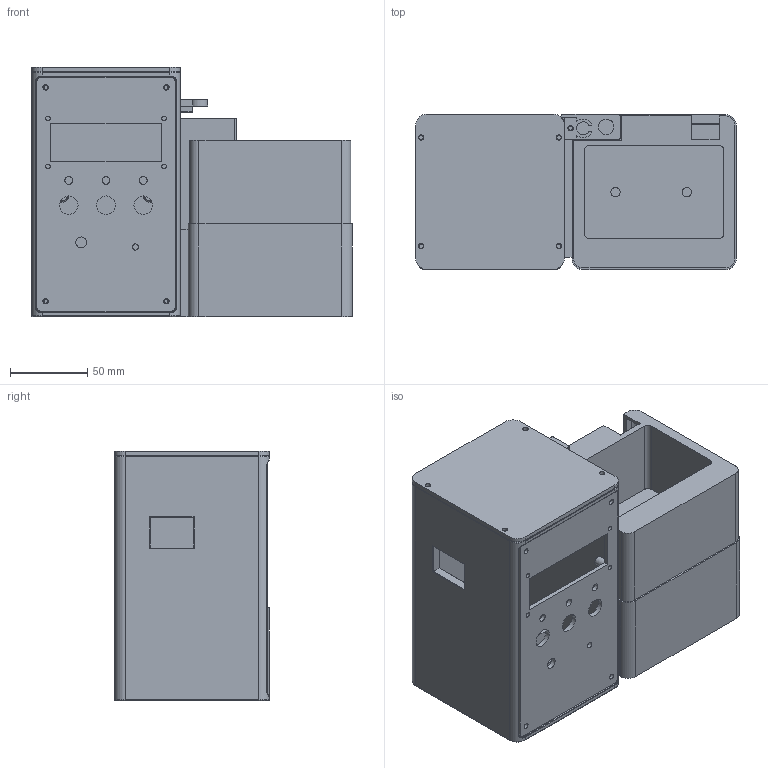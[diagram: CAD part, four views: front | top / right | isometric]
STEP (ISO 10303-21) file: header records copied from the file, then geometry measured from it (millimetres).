
FILE_DESCRIPTION(('Open CASCADE Model'),'2;1');
FILE_NAME('Open CASCADE Shape Model','2026-09-13T21:36:10',('Author'),( 'Open CASCADE'),'Open CASCADE STEP processor 7.9','Open CASCADE 7.9' ,'Unknown');
FILE_SCHEMA(('AUTOMOTIVE_DESIGN { 1 0 10303 214 1 1 1 1 }'));
Length unit declared in the file: millimetre
Products named in the file (6): Open CASCADE STEP translator 7.9 6; Open CASCADE STEP translator 7.9 6.1; Open CASCADE STEP translator 7.9 6.2; Open CASCADE STEP translator 7.9 6.3; Open CASCADE STEP translator 7.9 6.4; Open CASCADE STEP translator 7.9 6.5
Assembly tree (5 placements, depth 2):
  Open CASCADE STEP translator 7.9 6
    Open CASCADE STEP translator 7.9 6.1
    Open CASCADE STEP translator 7.9 6.2
    Open CASCADE STEP translator 7.9 6.3
    Open CASCADE STEP translator 7.9 6.4
    Open CASCADE STEP translator 7.9 6.5
Bounding box: 207 x 100 x 161 mm (x, y, z)
Volume: 781751.1 mm3; surface area: 319941 mm2
Topology: 5 solids, 5 shells, 371 faces, 933 edges, 599 vertices
Faces by surface type: plane 206, cylinder 137, torus 20, bspline 4, cone 4
Full cylindrical faces by diameter (mm): 2.8 x13, 3 x4, 3.4 x11, 4 x1, 5 x3, 5.4 x3, 6 x6, 7 x1, 8 x10, 10 x1, 10.4 x1, 12 x3, 14.4 x1
Entity records: 24999 total; most frequent: CARTESIAN_POINT 6144, DIRECTION 3486, LINE 1907, VECTOR 1907, ORIENTED_EDGE 1866, PCURVE 1866, DEFINITIONAL_REPRESENTATION 1866, EDGE_CURVE 933
